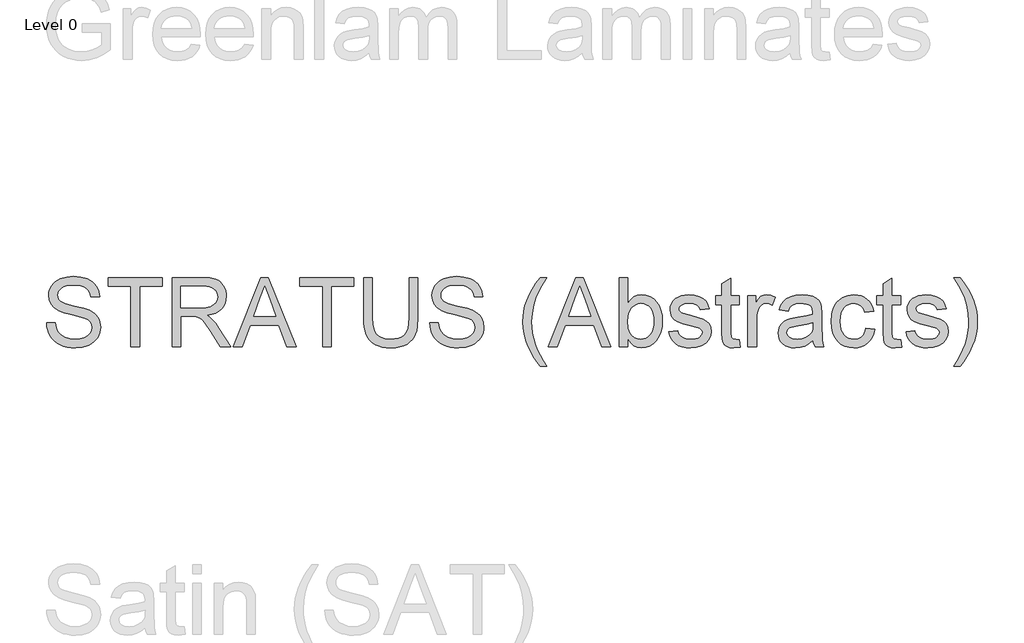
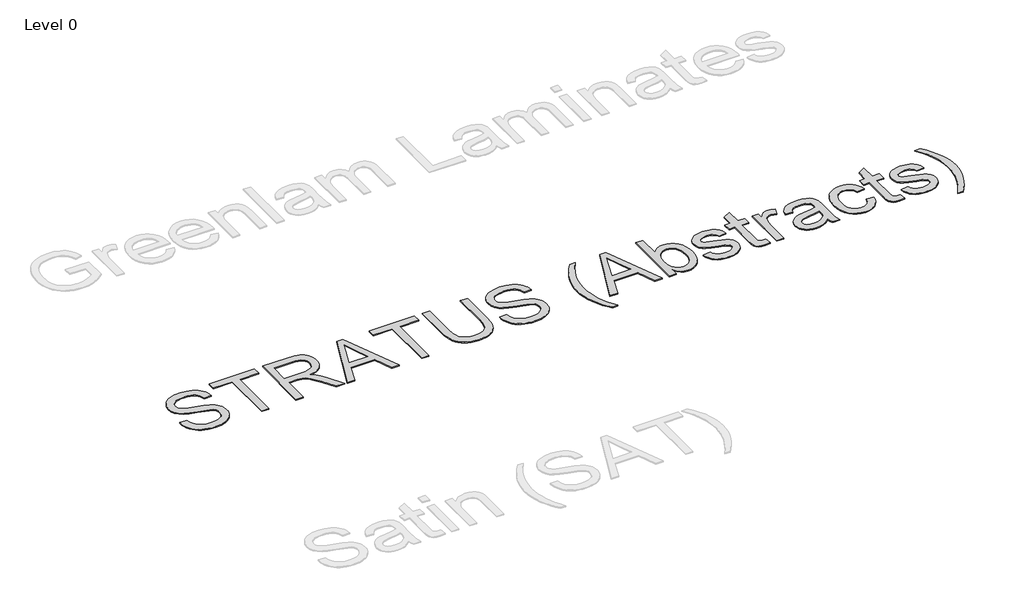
# One storey, part 8 of 9: 1 proxy.
"""IFC4 building model written with IfcOpenShell, lengths in millimetres."""

from ifc_helpers import new_model, si_unit, origin, origin_with_axes, place, context, project, spatial, polyline, outline, extrude, element, save

model = new_model("IFC4")

# Units and contexts
model_context = context("Model", 3, world=origin())
ifc_project = project(units=[si_unit("LENGTHUNIT", "METRE", prefix="MILLI")], contexts=[model_context])

# Site, building, storey
site = spatial("IfcSite", under=ifc_project)
building = spatial("IfcBuilding", under=site)
storey = spatial("IfcBuildingStorey", under=building, Name="Level 0", Elevation=0.0)

# Proxy
placement = place(None, origin())
element("IfcBuildingElementProxy", 1, Name="600mm Arial", ObjectType="600mm Arial", at=placement, inside=storey, context=model_context, shape_type="SweptSolid", body=[
    extrude(outline(polyline([(-10905.7165225, 467.3190924), (-10830.3742899, 467.3190924), (-10821.729063, 425.5093036), (-10806.0940782, 391.9032833), (-10781.7035019, 365.2318387), (-10746.7915006, 344.2257768), (-10704.1171891, 330.5957488), (-10656.4396825, 326.0524062), (-10614.4643469, 329.4921029), (-10577.7129356, 339.8111928), (-10547.9328881, 356.1451534), (-10526.8716438, 377.6294619), (-10514.3452619, 402.2959497), (-10510.1698013, 428.1764481), (-10513.2967982, 453.3947588), (-10522.6777891, 475.1917671), (-10541.7340764, 493.7882019), (-10573.8869628, 509.4047926), (-10683.5893738, 538.1731646), (-10755.6022743, 557.2110579), (-10801.6794942, 575.3292461), (-10839.1850636, 600.6763156), (-10865.7645378, 631.3944622), (-10881.6018577, 666.8214983), (-10886.8809643, 706.2952364), (-10885.248488, 728.7314396), (-10880.3510589, 750.4226817), (-10872.1886771, 771.3689628), (-10860.7613427, 791.5702829), (-10846.1978142, 810.203506), (-10828.6268504, 826.445496), (-10808.0484513, 840.2962532), (-10784.4626169, 851.7557773), (-10731.4508214, 867.1516388), (-10672.7736431, 872.2835926), (-10609.2036344, 866.9125155), (-10553.5798767, 850.7992841), (-10529.2444827, 838.797134), (-10507.8889329, 824.2749923), (-10489.5132272, 807.2328588), (-10474.1173657, 787.6707338), (-10461.82091, 766.1588341), (-10452.7434218, 743.2673769), (-10446.884901, 718.9963623), (-10444.2453477, 693.3457902), (-10519.5875803, 693.3457902), (-10524.6275637, 717.3868786), (-10533.4199434, 738.30097), (-10545.9647194, 756.0880645), (-10562.2618918, 770.748162), (-10582.6149632, 782.2076861), (-10607.3274362, 790.3930605), (-10636.3993109, 795.3042852), (-10669.8305872, 796.94136), (-10704.3287213, 795.3226793), (-10733.8052661, 790.4666369), (-10758.2602218, 782.373233), (-10777.6935881, 771.0424676), (-10792.5008385, 757.4216367), (-10803.0774458, 742.4580365), (-10809.4234102, 726.1516671), (-10811.5387317, 708.5025284), (-10810.0396126, 693.318199), (-10805.5422552, 679.5502154), (-10798.0466595, 667.1985774), (-10787.5528256, 656.2632851), (-10771.034924, 645.9074069), (-10745.025667, 635.4411642), (-10664.5330864, 614.1775848), (-10581.4653319, 593.9808633), (-10531.2126514, 576.3593157), (-10488.2624284, 549.0256835), (-10471.6571549, 532.9584373), (-10458.2984399, 515.2909045), (-10448.0299337, 496.1150555), (-10440.6952865, 475.5228608), (-10434.8275686, 430.0894344), (-10436.5152273, 406.5219941), (-10441.5782033, 383.6443326), (-10450.0164965, 361.4564497), (-10461.8301071, 339.9583456), (-10476.8121013, 319.9823533), (-10494.7555457, 302.3608057), (-10515.66044, 287.0937029), (-10539.5267845, 274.1810449), (-10565.6602017, 263.9125387), (-10593.3663145, 256.5778914), (-10653.4966266, 250.7101736), (-10692.0368641, 252.2920662), (-10727.3121489, 257.0377439), (-10759.322481, 264.9472068), (-10788.0678604, 276.0204549), (-10813.7230311, 290.2758822), (-10836.4627369, 307.7318828), (-10856.2869779, 328.3884569), (-10873.1957541, 352.2456043), (-10886.816585, 378.5307728), (-10896.77699, 406.4714104), (-10903.0769692, 436.0675169), (-10905.7165225, 467.3190924)])), origin_with_axes(), (0.0, 0.0, 1.0), 10.0),
    extrude(outline(polyline([(-10171.1297545, 260.1279527), (-10171.1297545, 787.523581), (-10368.9031151, 787.523581), (-10368.9031151, 862.8658136), (-9898.0141613, 862.8658136), (-9898.0141613, 787.523581), (-10095.7875219, 787.523581), (-10095.7875219, 260.1279527), (-10171.1297545, 260.1279527)])), origin_with_axes(), (0.0, 0.0, 1.0), 10.0),
    extrude(outline(polyline([(-9813.2541496, 260.1279527), (-9813.2541496, 862.8658136), (-9553.529461, 862.8658136), (-9483.7238524, 858.8007175), (-9432.937743, 846.6054294), (-9413.3388297, 836.9117388), (-9395.8184497, 824.0910513), (-9380.3766029, 808.1433668), (-9367.0132894, 789.0686853), (-9356.2297485, 767.892478), (-9348.5272192, 745.6402158), (-9343.9057016, 722.3118988), (-9342.3651958, 697.9075269), (-9344.9173771, 666.950257), (-9352.5739211, 638.5313729), (-9365.3348278, 612.6508745), (-9383.2000972, 589.308762), (-9406.3996556, 569.2499962), (-9435.1634291, 553.2195382), (-9469.4914177, 541.2173881), (-9509.3836216, 533.2435459), (-9484.5515869, 517.0199499), (-9466.5621573, 501.0170831), (-9435.6968579, 464.4128246), (-9405.4937461, 423.4675585), (-9304.9883851, 260.1279527), (-9392.5442999, 260.1279527), (-9470.9767413, 385.0606782), (-9527.6305685, 467.7605507), (-9548.6918128, 491.8752155), (-9567.4354004, 506.8296186), (-9603.2671067, 521.1770164), (-9646.9714878, 523.8257668), (-9737.911917, 523.8257668), (-9737.911917, 260.1279527), (-9813.2541496, 260.1279527)]), holes=[polyline([(-9737.911917, 599.1679994), (-9569.2748104, 599.1679994), (-9520.8431457, 601.8351439), (-9483.2639999, 609.8365773), (-9454.9738745, 623.7057285), (-9434.409271, 643.9760264), (-9421.882889, 668.4953614), (-9417.7074284, 695.1116238), (-9419.6985897, 714.3794433), (-9425.6720736, 731.8630351), (-9435.6278801, 747.5623992), (-9449.5660092, 761.4775357), (-9467.8083576, 772.8726805), (-9490.6768221, 781.0120696), (-9518.1714027, 785.8957031), (-9550.2920994, 787.523581), (-9737.911917, 787.523581), (-9737.911917, 599.1679994)])]), origin_with_axes(), (0.0, 0.0, 1.0), 10.0),
    extrude(outline(polyline([(-9280.5610206, 260.1279527), (-9039.9661957, 862.8658136), (-8975.8075758, 862.8658136), (-8735.3599037, 260.1279527), (-8814.9695675, 260.1279527), (-8883.837077, 448.4835342), (-9132.2310001, 448.4835342), (-9201.0985096, 260.1279527), (-9280.5610206, 260.1279527)]), holes=[polyline([(-9104.5662741, 523.8257668), (-8911.3546502, 523.8257668), (-8965.8011855, 672.0086345), (-9008.0340386, 787.523581), (-9045.5580021, 684.9580807), (-9104.5662741, 523.8257668)])]), origin_with_axes(), (0.0, 0.0, 1.0), 10.0),
    extrude(outline(polyline([(-8504.182858, 260.1279527), (-8504.182858, 787.523581), (-8701.9562186, 787.523581), (-8701.9562186, 862.8658136), (-8231.0672647, 862.8658136), (-8231.0672647, 787.523581), (-8428.8406253, 787.523581), (-8428.8406253, 260.1279527), (-8504.182858, 260.1279527)])), origin_with_axes(), (0.0, 0.0, 1.0), 10.0),
    extrude(outline(polyline([(-7750.7605318, 862.8658136), (-7675.4182992, 862.8658136), (-7675.4182992, 515.1437517), (-7680.531859, 433.7130721), (-7686.9238086, 400.0196799), (-7695.8725382, 371.007586), (-7708.1505997, 345.5777431), (-7724.5305456, 322.6311037), (-7745.0123757, 302.1676677), (-7769.59609, 284.1874352), (-7798.3092797, 269.5411332), (-7831.179536, 259.079489), (-7868.2068588, 252.8025024), (-7909.3912482, 250.7101736), (-7949.5593635, 252.5311895), (-7985.8923091, 257.9942371), (-8018.3900848, 267.0993165), (-8047.0526907, 279.8464276), (-8071.8847254, 296.047031), (-8092.8907873, 315.512587), (-8110.0708765, 338.2430958), (-8123.4249929, 364.2385573), (-8133.4359817, 394.3910853), (-8140.586688, 429.5927937), (-8144.8771118, 469.8436825), (-8146.307253, 515.1437517), (-8146.307253, 862.8658136), (-8070.9650204, 862.8658136), (-8070.9650204, 517.7925021), (-8067.2494123, 450.0838209), (-8056.1025878, 402.9397432), (-8047.3377993, 385.5619175), (-8035.9058663, 370.2902161), (-8021.8067888, 357.1246392), (-8005.0405669, 346.0651867), (-7964.7942766, 331.0556013), (-7916.4545825, 326.0524062), (-7874.9299023, 328.5264126), (-7839.8247629, 335.9484319), (-7811.1391643, 348.318464), (-7788.8731065, 365.6365089), (-7772.1988551, 389.990297), (-7760.2886755, 423.4675585), (-7753.1425678, 466.0682936), (-7750.7605318, 517.7925021), (-7750.7605318, 862.8658136)])), origin_with_axes(), (0.0, 0.0, 1.0), 10.0),
    extrude(outline(polyline([(-7571.8227294, 467.3190924), (-7496.4804968, 467.3190924), (-7487.8352699, 425.5093036), (-7472.2002851, 391.9032833), (-7447.8097088, 365.2318387), (-7412.8977075, 344.2257768), (-7370.223396, 330.5957488), (-7322.5458894, 326.0524062), (-7280.5705538, 329.4921029), (-7243.8191425, 339.8111928), (-7214.039095, 356.1451534), (-7192.9778507, 377.6294619), (-7180.4514688, 402.2959497), (-7176.2760082, 428.1764481), (-7179.4030051, 453.3947588), (-7188.783996, 475.1917671), (-7207.8402834, 493.7882019), (-7239.9931697, 509.4047926), (-7349.6955807, 538.1731646), (-7421.7084812, 557.2110579), (-7467.7857011, 575.3292461), (-7505.2912706, 600.6763156), (-7531.8707447, 631.3944622), (-7547.7080646, 666.8214983), (-7552.9871712, 706.2952364), (-7551.3546949, 728.7314396), (-7546.4572658, 750.4226817), (-7538.294884, 771.3689628), (-7526.8675496, 791.5702829), (-7512.3040211, 810.203506), (-7494.7330573, 826.445496), (-7474.1546582, 840.2962532), (-7450.5688238, 851.7557773), (-7397.5570283, 867.1516388), (-7338.87985, 872.2835926), (-7275.3098413, 866.9125155), (-7219.6860836, 850.7992841), (-7195.3506896, 838.797134), (-7173.9951398, 824.2749923), (-7155.6194341, 807.2328588), (-7140.2235726, 787.6707338), (-7127.927117, 766.1588341), (-7118.8496287, 743.2673769), (-7112.9911079, 718.9963623), (-7110.3515546, 693.3457902), (-7185.6937872, 693.3457902), (-7190.7337706, 717.3868786), (-7199.5261503, 738.30097), (-7212.0709263, 756.0880645), (-7228.3680987, 770.748162), (-7248.7211701, 782.2076861), (-7273.4336431, 790.3930605), (-7302.5055178, 795.3042852), (-7335.9367941, 796.94136), (-7370.4349282, 795.3226793), (-7399.911473, 790.4666369), (-7424.3664287, 782.373233), (-7443.7997951, 771.0424676), (-7458.6070454, 757.4216367), (-7469.1836527, 742.4580365), (-7475.5296171, 726.1516671), (-7477.6449386, 708.5025284), (-7476.1458195, 693.318199), (-7471.6484621, 679.5502154), (-7464.1528664, 667.1985774), (-7453.6590325, 656.2632851), (-7437.1411309, 645.9074069), (-7411.1318739, 635.4411642), (-7330.6392933, 614.1775848), (-7247.5715388, 593.9808633), (-7197.3188583, 576.3593157), (-7154.3686354, 549.0256835), (-7137.7633618, 532.9584373), (-7124.4046468, 515.2909045), (-7114.1361407, 496.1150555), (-7106.8014934, 475.5228608), (-7100.9337756, 430.0894344), (-7102.6214342, 406.5219941), (-7107.6844102, 383.6443326), (-7116.1227034, 361.4564497), (-7127.936314, 339.9583456), (-7142.9183083, 319.9823533), (-7160.8617526, 302.3608057), (-7181.7666469, 287.0937029), (-7205.6329914, 274.1810449), (-7231.7664086, 263.9125387), (-7259.4725214, 256.5778914), (-7319.6028335, 250.7101736), (-7358.143071, 252.2920662), (-7393.4183558, 257.0377439), (-7425.4286879, 264.9472068), (-7454.1740673, 276.0204549), (-7479.829238, 290.2758822), (-7502.5689438, 307.7318828), (-7522.3931848, 328.3884569), (-7539.301961, 352.2456043), (-7552.9227919, 378.5307728), (-7562.8831969, 406.4714104), (-7569.1831761, 436.0675169), (-7571.8227294, 467.3190924)])), origin_with_axes(), (0.0, 0.0, 1.0), 10.0),
    extrude(outline(polyline([(-6611.2092636, 90.6079293), (-6641.6239075, 129.9621057), (-6669.5921362, 172.5352496), (-6695.1139496, 218.327361), (-6718.1893478, 267.3384398), (-6737.3100145, 318.4188548), (-6750.9676335, 370.4189748), (-6759.162205, 423.3387998), (-6761.8937288, 477.1783298), (-6759.8519837, 524.4971515), (-6753.7267485, 570.8042976), (-6743.5180231, 616.0997683), (-6729.2258076, 660.3835634), (-6707.5023758, 711.1696729), (-6680.5918079, 761.8454177), (-6648.4941038, 812.4107979), (-6611.2092636, 862.8658136), (-6554.7025891, 862.8658136), (-6599.0323695, 791.2391891), (-6625.1887794, 743.5248943), (-6649.2482619, 686.8710671), (-6667.5687852, 627.862795), (-6681.8058184, 552.4837742), (-6686.5514962, 476.7368714), (-6684.491357, 428.438564), (-6678.3109395, 380.1494536), (-6668.0102436, 331.8695403), (-6653.5892694, 283.598824), (-6635.0480169, 235.3373047), (-6612.386486, 187.0849825), (-6585.6046767, 138.8418574), (-6554.7025891, 90.6079293), (-6611.2092636, 90.6079293)])), origin_with_axes(), (0.0, 0.0, 1.0), 10.0),
    extrude(outline(polyline([(-6539.9873093, 260.1279527), (-6299.3924845, 862.8658136), (-6235.2338645, 862.8658136), (-5994.7861925, 260.1279527), (-6074.3958562, 260.1279527), (-6143.2633657, 448.4835342), (-6391.6572889, 448.4835342), (-6460.5247984, 260.1279527), (-6539.9873093, 260.1279527)]), holes=[polyline([(-6363.9925628, 523.8257668), (-6170.7809389, 523.8257668), (-6225.2274742, 672.0086345), (-6267.4603273, 787.523581), (-6304.9842908, 684.9580807), (-6363.9925628, 523.8257668)])]), origin_with_axes(), (0.0, 0.0, 1.0), 10.0),
    extrude(outline(polyline([(-5848.3691584, 260.1279527), (-5923.711391, 260.1279527), (-5923.711391, 862.8658136), (-5848.3691584, 862.8658136), (-5848.3691584, 639.3407133), (-5823.592306, 671.2084911), (-5795.6148803, 693.9711896), (-5764.4368812, 707.6288087), (-5730.0583087, 712.1813483), (-5691.2467582, 708.0794641), (-5654.5689233, 695.7738114), (-5622.1217313, 676.0369423), (-5596.0021097, 649.6414092), (-5575.5294767, 616.8447293), (-5560.0232506, 577.9044201), (-5550.2559836, 534.4391624), (-5547.0002279, 488.0676369), (-5550.3709467, 434.5592007), (-5560.4831031, 387.4886994), (-5577.336697, 346.856133), (-5600.9317284, 312.6615016), (-5629.2540435, 285.5577956), (-5660.2894883, 266.1980056), (-5694.0380629, 254.5821316), (-5730.4997671, 250.7101736), (-5766.0095767, 255.7041717), (-5797.4910784, 270.6861659), (-5824.9442723, 295.6561564), (-5848.3691584, 330.6141429), (-5848.3691584, 260.1279527)]), holes=[polyline([(-5848.3691584, 484.5359697), (-5843.2188104, 421.701725), (-5836.7808755, 397.8997599), (-5827.7677666, 379.1745663), (-5809.5116226, 355.9336213), (-5788.2940286, 339.3329462), (-5764.1149844, 329.3725412), (-5736.9744902, 326.0524062), (-5714.441718, 328.4988215), (-5693.4908384, 335.8380673), (-5674.1218514, 348.0701436), (-5656.3347569, 365.1950505), (-5641.4631272, 387.1668027), (-5630.8405346, 413.9394149), (-5624.4669791, 445.5128871), (-5622.3424605, 481.8872194), (-5624.3796071, 518.9513304), (-5630.4910467, 550.8283053), (-5640.6767795, 577.518144), (-5654.9368053, 599.0208466), (-5672.0847048, 615.5663394), (-5690.9340585, 627.3845485), (-5711.4848665, 634.4754739), (-5733.7371287, 636.8391157), (-5756.2699009, 634.3927005), (-5777.2207805, 627.0534547), (-5796.5897676, 614.8213783), (-5814.376862, 597.6964714), (-5829.2484917, 575.9454485), (-5839.8710843, 549.8350239), (-5846.2446399, 519.3651976), (-5848.3691584, 484.5359697)])]), origin_with_axes(), (0.0, 0.0, 1.0), 10.0),
    extrude(outline(polyline([(-5490.4935535, 391.9768597), (-5415.1513209, 401.3946388), (-5410.5987812, 384.2145496), (-5403.2687324, 369.168176), (-5393.1611746, 356.255518), (-5380.2761077, 345.4765756), (-5364.5767436, 336.9785015), (-5346.026294, 330.9084485), (-5300.3721384, 326.0524062), (-5255.2698058, 330.5037783), (-5237.7402287, 336.0679935), (-5223.5583778, 343.8578948), (-5204.796396, 363.2084877), (-5200.1059006, 374.0426125), (-5198.5424021, 385.6492894), (-5200.1150976, 395.8212266), (-5204.8331842, 404.8527296), (-5223.7055306, 419.494433), (-5251.9220796, 429.0593649), (-5301.2550551, 440.9787415), (-5370.0122, 460.8627633), (-5414.7098625, 477.8405174), (-5443.4230522, 496.3633759), (-5464.226779, 520.8827109), (-5476.8635255, 549.8350239), (-5481.0757744, 581.6568165), (-5477.69126, 610.8482528), (-5467.537717, 637.7956089), (-5451.5348502, 661.4320271), (-5430.6023647, 680.6906496), (-5409.7986378, 692.8123613), (-5382.7041289, 702.9842985), (-5351.378977, 709.8820859), (-5317.8833213, 712.1813483), (-5268.8446514, 708.4841343), (-5226.2071281, 697.3924921), (-5191.9205262, 679.9916738), (-5167.9346201, 657.3669311), (-5152.0421179, 627.844401), (-5142.0357276, 589.7502203), (-5217.3779602, 580.3324413), (-5226.8877098, 604.0424359), (-5245.7048739, 621.9031067), (-5274.0133934, 633.1051135), (-5311.9972094, 636.8391157), (-5355.260132, 633.2706604), (-5384.1020805, 622.5652943), (-5400.3256765, 607.1142505), (-5405.7335418, 589.308762), (-5403.4894616, 577.7204791), (-5396.7572211, 567.382995), (-5385.2425146, 558.149157), (-5368.6510367, 550.7547289), (-5303.7566527, 534.7150739), (-5193.171325, 499.2512495), (-5163.9614945, 482.2918896), (-5141.8149984, 459.0785357), (-5127.8538767, 429.5376115), (-5123.2001695, 393.5955405), (-5128.6632171, 356.439459), (-5145.05236, 321.4906695), (-5171.7421987, 291.4898928), (-5208.107334, 269.1778498), (-5252.0324442, 255.3270926), (-5301.4022079, 250.7101736), (-5341.9520009, 252.9358597), (-5377.36984, 259.6129179), (-5407.6557252, 270.7413482), (-5432.8096566, 286.3211507), (-5453.3558661, 306.278749), (-5469.8185853, 330.5405665), (-5482.1978145, 359.1066035), (-5490.4935535, 391.9768597)])), origin_with_axes(), (0.0, 0.0, 1.0), 10.0),
    extrude(outline(polyline([(-4878.3379135, 322.9621974), (-4868.9201344, 257.9206607), (-4925.2796561, 250.7101736), (-4961.4424562, 253.8371706), (-4988.4082065, 263.2181614), (-5007.4644938, 277.6759238), (-5019.8989052, 296.0332354), (-5026.7415103, 327.5607224), (-5029.0223787, 381.5290111), (-5029.0223787, 627.4213367), (-5085.5290532, 627.4213367), (-5085.5290532, 702.7635693), (-5029.0223787, 702.7635693), (-5029.0223787, 810.3322647), (-4953.6801461, 854.6252569), (-4953.6801461, 702.7635693), (-4878.3379135, 702.7635693), (-4878.3379135, 627.4213367), (-4953.6801461, 627.4213367), (-4953.6801461, 383.7363031), (-4949.7070206, 344.8879644), (-4936.8311507, 331.1291777), (-4925.9602378, 327.3215991), (-4911.1529875, 326.0524062), (-4878.3379135, 322.9621974)])), origin_with_axes(), (0.0, 0.0, 1.0), 10.0),
    extrude(outline(polyline([(-4802.9956809, 260.1279527), (-4802.9956809, 702.7635693), (-4737.0712273, 702.7635693), (-4737.0712273, 637.2805741), (-4712.7174393, 675.245996), (-4690.2766376, 697.6132213), (-4667.7622595, 708.5393166), (-4643.1877422, 712.1813483), (-4605.6637787, 706.3688128), (-4567.551204, 688.9312062), (-4592.7143324, 621.3880719), (-4619.2018361, 632.9763548), (-4645.6893397, 636.8391157), (-4668.1853237, 633.1235076), (-4688.2900748, 621.9766831), (-4704.5320649, 604.244771), (-4715.439766, 580.7738997), (-4724.6000277, 538.6881994), (-4727.6534483, 492.7765264), (-4727.6534483, 260.1279527), (-4802.9956809, 260.1279527)])), origin_with_axes(), (0.0, 0.0, 1.0), 10.0),
    extrude(outline(polyline([(-4237.9289363, 316.6346271), (-4273.9261895, 285.7693277), (-4310.9903005, 265.5726062), (-4349.9673979, 254.4257817), (-4391.7036103, 250.7101736), (-4425.2498497, 252.9450567), (-4454.6666137, 259.6497061), (-4479.9539024, 270.8241217), (-4501.1117156, 286.4683035), (-4517.8181567, 305.5889702), (-4529.751329, 327.1928404), (-4536.9112323, 351.279914), (-4539.2978667, 377.8501911), (-4535.6926232, 409.0833725), (-4524.8768925, 437.4470743), (-4508.193444, 461.727286), (-4486.985047, 480.709997), (-4462.0610419, 495.0573948), (-4434.2307689, 505.4316671), (-4369.0420794, 516.7624325), (-4292.0075896, 528.6818092), (-4238.3703947, 542.661325), (-4237.9289363, 559.4367439), (-4243.1160724, 593.0611583), (-4249.5999926, 605.5139638), (-4258.6774808, 615.0605016), (-4274.3676479, 624.5886453), (-4293.4791176, 631.3944622), (-4341.9659645, 636.8391157), (-4386.8475679, 633.2154781), (-4418.1911139, 622.3445651), (-4439.5650578, 602.2398141), (-4454.5378551, 570.9146622), (-4529.8800877, 580.3324413), (-4516.8018827, 621.5352247), (-4497.2857429, 653.9088403), (-4469.5106523, 678.6672986), (-4431.655595, 697.0246101), (-4385.3576459, 708.3921638), (-4332.2538799, 712.1813483), (-4281.3206176, 708.8336222), (-4240.9455687, 698.7904437), (-4210.5033335, 683.6888878), (-4189.3685129, 665.1660294), (-4175.3522089, 642.2653752), (-4166.2655236, 614.030432), (-4162.5867037, 548.1059785), (-4162.5867037, 454.3696461), (-4158.7607309, 323.4772322), (-4153.0953482, 291.1220108), (-4143.7511455, 260.1279527), (-4219.0933781, 260.1279527), (-4231.1599076, 286.3211507), (-4237.9289363, 316.6346271)]), holes=[polyline([(-4237.9289363, 467.3190924), (-4288.5494988, 454.7743163), (-4359.4771475, 444.2161031), (-4424.297955, 432.0024208), (-4441.1653445, 423.6514995), (-4453.6549383, 412.1367931), (-4461.3804602, 398.3412183), (-4463.9556341, 383.1476919), (-4458.3454337, 360.7436784), (-4441.5148324, 342.3863668), (-4413.8317123, 330.1358964), (-4375.6639553, 326.0524062), (-4335.1969358, 330.5589606), (-4299.4388059, 344.078624), (-4270.4497047, 363.999434), (-4250.2897713, 387.7094286), (-4241.3502388, 412.1367931), (-4238.3703947, 445.9819366), (-4237.9289363, 467.3190924)])]), origin_with_axes(), (0.0, 0.0, 1.0), 10.0),
    extrude(outline(polyline([(-3776.4577615, 420.230197), (-3701.1155289, 410.8124179), (-3709.3101004, 375.2612216), (-3722.1215909, 343.8027125), (-3739.5500004, 316.4368906), (-3761.5953289, 293.1637558), (-3787.3286745, 274.5903136), (-3815.821135, 261.3235692), (-3847.0727105, 253.3635225), (-3881.083401, 250.7101736), (-3923.3392466, 254.4119862), (-3961.2264936, 265.5174239), (-3994.7451419, 284.0264868), (-4023.8951915, 309.9391748), (-4047.490223, 342.7680444), (-4064.3438169, 382.0256518), (-4074.4559732, 427.711997), (-4077.826692, 479.8270802), (-4072.0693388, 546.8735738), (-4064.8726472, 577.0444959), (-4054.7972791, 604.9805349), (-4041.7742565, 630.1206708), (-4025.7346015, 651.9038834), (-4006.6783141, 670.3301729), (-3984.6053944, 685.3995391), (-3960.5137223, 697.1165806), (-3935.4011776, 705.485896), (-3909.2677603, 710.5074853), (-3882.1134706, 712.1813483), (-3848.6867928, 709.8820859), (-3818.4514913, 702.9842985), (-3791.4075661, 691.4879861), (-3767.5550173, 675.3931488), (-3747.2985149, 655.0676686), (-3731.0427292, 630.8794274), (-3718.7876603, 602.8284253), (-3710.533308, 570.9146622), (-3785.8755406, 561.4968831), (-3799.5423567, 594.3671394), (-3820.8243302, 617.9299812), (-3848.5442385, 632.1118321), (-3881.5248594, 636.8391157), (-3907.1248477, 634.5122621), (-3930.2140414, 627.5317013), (-3950.7924405, 615.8974332), (-3968.860045, 599.6094578), (-3983.5707263, 578.2906962), (-3994.0783558, 551.5640693), (-4000.3829335, 519.429577), (-4002.4844594, 481.8872194), (-4000.4289187, 443.7792432), (-3994.2622968, 411.2722704), (-3983.9845935, 384.366301), (-3969.595809, 363.0613349), (-3951.8868895, 346.8699286), (-3931.6487812, 335.3046384), (-3908.8814842, 328.3654643), (-3883.5849985, 326.0524062), (-3844.5711129, 331.8281535), (-3827.6991249, 339.0478377), (-3812.5837735, 349.1553955), (-3799.6481228, 362.2611916), (-3789.3152373, 378.4755905), (-3781.5851168, 397.7985923), (-3776.4577615, 420.230197)])), origin_with_axes(), (0.0, 0.0, 1.0), 10.0),
    extrude(outline(polyline([(-3475.0888311, 322.9621974), (-3465.671052, 257.9206607), (-3522.0305737, 250.7101736), (-3558.1933738, 253.8371706), (-3585.159124, 263.2181614), (-3604.2154114, 277.6759238), (-3616.6498228, 296.0332354), (-3623.4924279, 327.5607224), (-3625.7732963, 381.5290111), (-3625.7732963, 627.4213367), (-3682.2799708, 627.4213367), (-3682.2799708, 702.7635693), (-3625.7732963, 702.7635693), (-3625.7732963, 810.3322647), (-3550.4310637, 854.6252569), (-3550.4310637, 702.7635693), (-3475.0888311, 702.7635693), (-3475.0888311, 627.4213367), (-3550.4310637, 627.4213367), (-3550.4310637, 383.7363031), (-3546.4579382, 344.8879644), (-3533.5820683, 331.1291777), (-3522.7111554, 327.3215991), (-3507.9039051, 326.0524062), (-3475.0888311, 322.9621974)])), origin_with_axes(), (0.0, 0.0, 1.0), 10.0),
    extrude(outline(polyline([(-3427.9999357, 391.9768597), (-3352.6577031, 401.3946388), (-3348.1051634, 384.2145496), (-3340.7751147, 369.168176), (-3330.6675568, 356.255518), (-3317.78249, 345.4765756), (-3302.0831258, 336.9785015), (-3283.5326762, 330.9084485), (-3237.8785206, 326.0524062), (-3192.776188, 330.5037783), (-3175.2466109, 336.0679935), (-3161.06476, 343.8578948), (-3142.3027783, 363.2084877), (-3137.6122828, 374.0426125), (-3136.0487843, 385.6492894), (-3137.6214799, 395.8212266), (-3142.3395665, 404.8527296), (-3161.2119128, 419.494433), (-3189.4284618, 429.0593649), (-3238.7614374, 440.9787415), (-3307.5185823, 460.8627633), (-3352.2162447, 477.8405174), (-3380.9294344, 496.3633759), (-3401.7331613, 520.8827109), (-3414.3699078, 549.8350239), (-3418.5821566, 581.6568165), (-3415.1976423, 610.8482528), (-3405.0440992, 637.7956089), (-3389.0412324, 661.4320271), (-3368.1087469, 680.6906496), (-3347.3050201, 692.8123613), (-3320.2105111, 702.9842985), (-3288.8853592, 709.8820859), (-3255.3897036, 712.1813483), (-3206.3510336, 708.4841343), (-3163.7135104, 697.3924921), (-3129.4269084, 679.9916738), (-3105.4410023, 657.3669311), (-3089.5485001, 627.844401), (-3079.5421099, 589.7502203), (-3154.8843425, 580.3324413), (-3164.3940921, 604.0424359), (-3183.2112561, 621.9031067), (-3211.5197756, 633.1051135), (-3249.5035916, 636.8391157), (-3292.7665143, 633.2706604), (-3321.6084627, 622.5652943), (-3337.8320587, 607.1142505), (-3343.239924, 589.308762), (-3340.9958438, 577.7204791), (-3334.2636033, 567.382995), (-3322.7488969, 558.149157), (-3306.1574189, 550.7547289), (-3241.263035, 534.7150739), (-3130.6777072, 499.2512495), (-3101.4678768, 482.2918896), (-3079.3213807, 459.0785357), (-3065.360259, 429.5376115), (-3060.7065517, 393.5955405), (-3066.1695994, 356.439459), (-3082.5587422, 321.4906695), (-3109.248581, 291.4898928), (-3145.6137162, 269.1778498), (-3189.5388264, 255.3270926), (-3238.9085902, 250.7101736), (-3279.4583831, 252.9358597), (-3314.8762222, 259.6129179), (-3345.1621074, 270.7413482), (-3370.3160389, 286.3211507), (-3390.8622483, 306.278749), (-3407.3249676, 330.5405665), (-3419.7041967, 359.1066035), (-3427.9999357, 391.9768597)])), origin_with_axes(), (0.0, 0.0, 1.0), 10.0),
    extrude(outline(polyline([(-2957.1109819, 90.6079293), (-3013.6176563, 90.6079293), (-2982.7155687, 138.8418574), (-2955.9337595, 187.0849825), (-2933.2722286, 235.3373047), (-2914.730976, 283.598824), (-2900.3100018, 331.8695403), (-2890.009306, 380.1494536), (-2883.8288884, 428.438564), (-2881.7687493, 476.7368714), (-2886.514427, 551.9319512), (-2900.7514602, 626.5384199), (-2918.7408898, 685.6570565), (-2942.6900077, 742.3476719), (-2968.9567821, 790.5770015), (-3013.6176563, 862.8658136), (-2957.1109819, 862.8658136), (-2919.8261417, 812.4107979), (-2887.7284376, 761.8454177), (-2860.8178696, 711.1696729), (-2839.0944378, 660.3835634), (-2824.8022223, 616.0997683), (-2814.593497, 570.8042976), (-2808.4682617, 524.4971515), (-2806.4265167, 477.1783298), (-2809.171836, 423.3387998), (-2817.4077942, 370.4189748), (-2831.1343912, 318.4188548), (-2850.3516269, 267.3384398), (-2873.4960029, 218.327361), (-2899.0040207, 172.5352496), (-2926.8756804, 129.9621057), (-2957.1109819, 90.6079293)])), origin_with_axes(), (0.0, 0.0, 1.0), 10.0),
])

save(model, "model.ifc")
